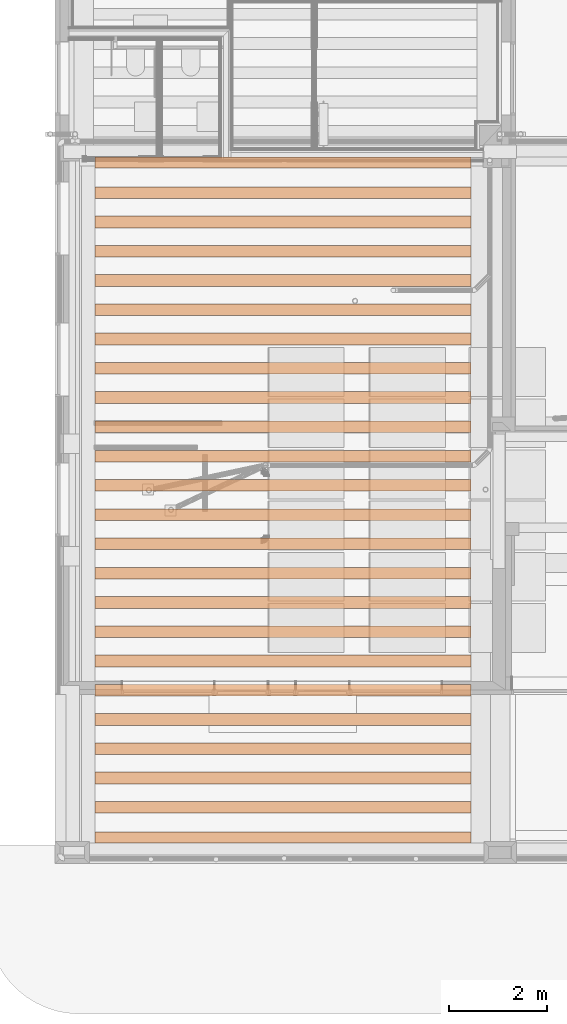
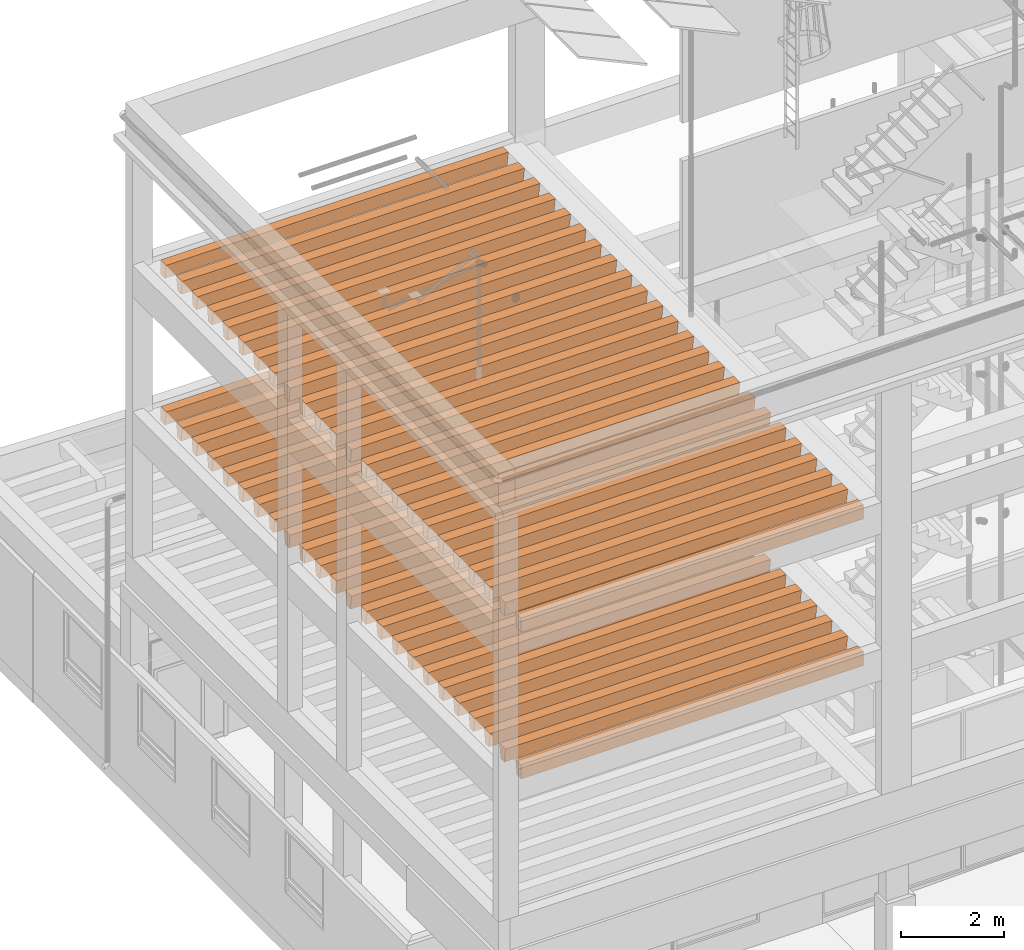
# One storey, part 104 of 106: 2 proxies.
"""IFC2X3 building model written with IfcOpenShell, lengths in metres."""

from ifc_helpers import new_model, entity, si_unit, converted_unit, derived_unit, money_unit, direction, frame, origin_with_axes, place, context, subcontext, project, spatial, faceted_brep, element, save


model = new_model("IFC2X3")

# Units and contexts
model_context = context("Model", 3, precision=1e-05, world=origin_with_axes(), true_north=direction((0.0, 1.0)))
body_context = subcontext(model_context, "Body", "Model", "MODEL_VIEW", scale=1.0)
ifc_project = project(units=[si_unit("LENGTHUNIT", "METRE"), si_unit("AREAUNIT", "SQUARE_METRE"), si_unit("VOLUMEUNIT", "CUBIC_METRE"), si_unit("ABSORBEDDOSEUNIT", "GRAY"), si_unit("AMOUNTOFSUBSTANCEUNIT", "MOLE"), si_unit("DOSEEQUIVALENTUNIT", "SIEVERT"), si_unit("ELECTRICCAPACITANCEUNIT", "FARAD"), si_unit("ELECTRICCHARGEUNIT", "COULOMB"), si_unit("ELECTRICCONDUCTANCEUNIT", "SIEMENS"), si_unit("ELECTRICCURRENTUNIT", "AMPERE"), si_unit("ELECTRICRESISTANCEUNIT", "OHM"), si_unit("ELECTRICVOLTAGEUNIT", "VOLT"), si_unit("ENERGYUNIT", "JOULE"), si_unit("FORCEUNIT", "NEWTON"), si_unit("FREQUENCYUNIT", "HERTZ"), si_unit("ILLUMINANCEUNIT", "LUX"), si_unit("INDUCTANCEUNIT", "HENRY"), si_unit("LUMINOUSFLUXUNIT", "LUMEN"), si_unit("LUMINOUSINTENSITYUNIT", "CANDELA"), si_unit("MAGNETICFLUXDENSITYUNIT", "TESLA"), si_unit("MAGNETICFLUXUNIT", "WEBER"), si_unit("MASSUNIT", "GRAM"), converted_unit("PLANEANGLEUNIT", "degree", entity("IfcReal", 0.0174532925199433), si_unit("PLANEANGLEUNIT", "RADIAN"), dimensions=[0, 0, 0, 0, 0, 0, 0]), si_unit("POWERUNIT", "WATT"), si_unit("PRESSUREUNIT", "PASCAL"), si_unit("RADIOACTIVITYUNIT", "BECQUEREL"), si_unit("SOLIDANGLEUNIT", "STERADIAN"), si_unit("THERMODYNAMICTEMPERATUREUNIT", "KELVIN"), si_unit("TIMEUNIT", "SECOND"), derived_unit("ACCELERATIONUNIT", [(si_unit("LENGTHUNIT", "METRE"), 1), (si_unit("TIMEUNIT", "SECOND"), -2)]), derived_unit("ANGULARVELOCITYUNIT", [(converted_unit("PLANEANGLEUNIT", "degree", entity("IfcReal", 0.0174532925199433), si_unit("PLANEANGLEUNIT", "RADIAN"), dimensions=[0, 0, 0, 0, 0, 0, 0]), 1), (si_unit("TIMEUNIT", "SECOND"), -1)]), derived_unit("CURVATUREUNIT", [(converted_unit("PLANEANGLEUNIT", "degree", entity("IfcReal", 0.0174532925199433), si_unit("PLANEANGLEUNIT", "RADIAN"), dimensions=[0, 0, 0, 0, 0, 0, 0]), 1), (si_unit("LENGTHUNIT", "METRE"), -1)]), derived_unit("DYNAMICVISCOSITYUNIT", [(si_unit("PRESSUREUNIT", "PASCAL"), 1), (si_unit("TIMEUNIT", "SECOND"), 1)]), derived_unit("HEATFLUXDENSITYUNIT", [(si_unit("POWERUNIT", "WATT"), 1), (si_unit("LENGTHUNIT", "METRE"), -2)]), derived_unit("HEATINGVALUEUNIT", [(si_unit("ENERGYUNIT", "JOULE"), 1), (si_unit("MASSUNIT", "GRAM"), -1)]), derived_unit("INTEGERCOUNTRATEUNIT", [(si_unit("TIMEUNIT", "SECOND"), -1)]), derived_unit("IONCONCENTRATIONUNIT", [(si_unit("MASSUNIT", "GRAM"), 1), (si_unit("VOLUMEUNIT", "CUBIC_METRE"), -1)]), derived_unit("ISOTHERMALMOISTURECAPACITYUNIT", [(si_unit("VOLUMEUNIT", "CUBIC_METRE"), 1), (si_unit("MASSUNIT", "GRAM"), -1)]), derived_unit("KINEMATICVISCOSITYUNIT", [(si_unit("AREAUNIT", "SQUARE_METRE"), 1), (si_unit("TIMEUNIT", "SECOND"), -1)]), derived_unit("LINEARFORCEUNIT", [(si_unit("FORCEUNIT", "NEWTON"), 1), (si_unit("LENGTHUNIT", "METRE"), -1)]), derived_unit("LINEARMOMENTUNIT", [(si_unit("FORCEUNIT", "NEWTON"), 1), (si_unit("LENGTHUNIT", "METRE"), -1)]), derived_unit("LINEARSTIFFNESSUNIT", [(si_unit("FORCEUNIT", "NEWTON"), 1), (si_unit("LENGTHUNIT", "METRE"), -1)]), derived_unit("LINEARVELOCITYUNIT", [(si_unit("LENGTHUNIT", "METRE"), 1), (si_unit("TIMEUNIT", "SECOND"), -1)]), derived_unit("LUMINOUSINTENSITYDISTRIBUTIONUNIT", [(si_unit("LUMINOUSINTENSITYUNIT", "CANDELA"), 1), (si_unit("LUMINOUSFLUXUNIT", "LUMEN"), -1)]), derived_unit("MASSDENSITYUNIT", [(si_unit("MASSUNIT", "GRAM"), 1), (si_unit("VOLUMEUNIT", "CUBIC_METRE"), -1)]), derived_unit("MASSFLOWRATEUNIT", [(si_unit("MASSUNIT", "GRAM"), 1), (si_unit("TIMEUNIT", "SECOND"), -1)]), derived_unit("MASSPERLENGTHUNIT", [(si_unit("MASSUNIT", "GRAM"), 1), (si_unit("LENGTHUNIT", "METRE"), -1)]), derived_unit("MODULUSOFELASTICITYUNIT", [(si_unit("FORCEUNIT", "NEWTON"), 1), (si_unit("AREAUNIT", "SQUARE_METRE"), -1)]), derived_unit("MODULUSOFLINEARSUBGRADEREACTIONUNIT", [(si_unit("FORCEUNIT", "NEWTON"), 1), (si_unit("LENGTHUNIT", "METRE"), -2)]), derived_unit("MODULUSOFROTATIONALSUBGRADEREACTIONUNIT", [(si_unit("FORCEUNIT", "NEWTON"), 1), (si_unit("LENGTHUNIT", "METRE"), 1)]), derived_unit("MODULUSOFSUBGRADEREACTIONUNIT", [(si_unit("FORCEUNIT", "NEWTON"), 1), (si_unit("VOLUMEUNIT", "CUBIC_METRE"), -1)]), derived_unit("MOISTUREDIFFUSIVITYUNIT", [(si_unit("VOLUMEUNIT", "CUBIC_METRE"), 1), (si_unit("TIMEUNIT", "SECOND"), -1)]), derived_unit("MOLECULARWEIGHTUNIT", [(si_unit("MASSUNIT", "GRAM"), 1), (si_unit("AMOUNTOFSUBSTANCEUNIT", "MOLE"), -1)]), derived_unit("PLANARFORCEUNIT", [(si_unit("FORCEUNIT", "NEWTON"), 1), (si_unit("LENGTHUNIT", "METRE"), -2)]), derived_unit("ROTATIONALFREQUENCYUNIT", [(si_unit("TIMEUNIT", "SECOND"), -1)]), derived_unit("ROTATIONALMASSUNIT", [(si_unit("MASSUNIT", "GRAM"), 1), (si_unit("LENGTHUNIT", "METRE"), 2)]), derived_unit("ROTATIONALSTIFFNESSUNIT", [(si_unit("FORCEUNIT", "NEWTON"), 1), (si_unit("LENGTHUNIT", "METRE"), 1), (converted_unit("PLANEANGLEUNIT", "degree", entity("IfcReal", 0.0174532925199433), si_unit("PLANEANGLEUNIT", "RADIAN"), dimensions=[0, 0, 0, 0, 0, 0, 0]), -1)]), derived_unit("SECTIONAREAINTEGRALUNIT", [(si_unit("LENGTHUNIT", "METRE"), 5)]), derived_unit("SECTIONMODULUSUNIT", [(si_unit("LENGTHUNIT", "METRE"), 3)]), derived_unit("SHEARMODULUSUNIT", [(si_unit("FORCEUNIT", "NEWTON"), 1), (si_unit("AREAUNIT", "SQUARE_METRE"), -1)]), derived_unit("SOUNDPOWERUNIT", [(si_unit("ENERGYUNIT", "JOULE"), 1), (si_unit("TIMEUNIT", "SECOND"), -1)]), derived_unit("SPECIFICHEATCAPACITYUNIT", [(si_unit("FORCEUNIT", "NEWTON"), 1), (si_unit("MASSUNIT", "GRAM"), -1), (si_unit("THERMODYNAMICTEMPERATUREUNIT", "KELVIN"), -1)]), derived_unit("TEMPERATUREGRADIENTUNIT", [(si_unit("THERMODYNAMICTEMPERATUREUNIT", "KELVIN"), 1), (si_unit("LENGTHUNIT", "METRE"), -1)]), derived_unit("THERMALADMITTANCEUNIT", [(si_unit("POWERUNIT", "WATT"), 1), (si_unit("AREAUNIT", "SQUARE_METRE"), -1), (si_unit("THERMODYNAMICTEMPERATUREUNIT", "KELVIN"), -1)]), derived_unit("THERMALCONDUCTANCEUNIT", [(si_unit("POWERUNIT", "WATT"), 1), (si_unit("LENGTHUNIT", "METRE"), -1), (si_unit("THERMODYNAMICTEMPERATUREUNIT", "KELVIN"), -1)]), derived_unit("THERMALEXPANSIONCOEFFICIENTUNIT", [(si_unit("THERMODYNAMICTEMPERATUREUNIT", "KELVIN"), -1)]), derived_unit("THERMALRESISTANCEUNIT", [(si_unit("AREAUNIT", "SQUARE_METRE"), 1), (si_unit("POWERUNIT", "WATT"), -1)]), derived_unit("THERMALTRANSMITTANCEUNIT", [(si_unit("POWERUNIT", "WATT"), 1), (si_unit("AREAUNIT", "SQUARE_METRE"), -1), (si_unit("THERMODYNAMICTEMPERATUREUNIT", "KELVIN"), -1)]), derived_unit("TORQUEUNIT", [(si_unit("FORCEUNIT", "NEWTON"), 1), (si_unit("LENGTHUNIT", "METRE"), 1)]), derived_unit("VAPORPERMEABILITYUNIT", [(si_unit("MASSUNIT", "GRAM"), 1), (si_unit("TIMEUNIT", "SECOND"), -1)]), derived_unit("VOLUMETRICFLOWRATEUNIT", [(si_unit("VOLUMEUNIT", "CUBIC_METRE"), 1), (si_unit("TIMEUNIT", "SECOND"), -1)]), derived_unit("WARPINGCONSTANTUNIT", [(si_unit("LENGTHUNIT", "METRE"), 6)]), derived_unit("WARPINGMOMENTUNIT", [(si_unit("FORCEUNIT", "NEWTON"), 1), (si_unit("LENGTHUNIT", "METRE"), 2)]), money_unit("GBP")], contexts=[model_context])

# Site, building, storey
site_placement = place(None, origin_with_axes())
site = spatial("IfcSite", under=ifc_project, at=site_placement, Name="Site", CompositionType="ELEMENT")
building_placement = place(site_placement, origin_with_axes())
building = spatial("IfcBuilding", under=site, at=building_placement, Name="Building01", CompositionType="ELEMENT")
storey_placement = place(building_placement, origin_with_axes())
storey = spatial("IfcBuildingStorey", under=building, at=storey_placement, Name="GF", CompositionType="ELEMENT", Elevation=0.0)

# Proxies
proxy_1_placement = place(storey_placement, frame((4.6725, 7.45, 8.3), z_axis=(0.0, 0.0, 1.0), x_axis=(1.0, 0.0, 0.0)))
element("IfcBuildingElementProxy", 1, at=proxy_1_placement, inside=storey, context=body_context, shape_type="Brep", body=[
    faceted_brep([(-3.8525, -7.03, -0.17), (3.8525, -7.03, -0.17), (3.8525, -7.03, 0.17), (-3.8525, -7.03, 0.17), (-3.8525, -6.858571, -0.17), (3.8525, -6.858571, -0.17), (-3.8525, -6.81, 0.17), (3.8525, -6.81, 0.17)], [[[0, 1, 2, 3]], [[4, 5, 1, 0]], [[6, 7, 5, 4]], [[3, 2, 7, 6]], [[1, 5, 7, 2]], [[3, 6, 4, 0]]]),
    faceted_brep([(-3.8525, 7.03, 0.17), (3.8525, 7.03, 0.17), (3.8525, 7.03, -0.17), (-3.8525, 7.03, -0.17), (-3.8525, 6.81, 0.17), (3.8525, 6.81, 0.17), (-3.8525, 6.858572, -0.17), (3.8525, 6.858572, -0.17)], [[[0, 1, 2, 3]], [[4, 5, 1, 0]], [[6, 7, 5, 4]], [[3, 2, 7, 6]], [[1, 5, 7, 2]], [[3, 6, 4, 0]]]),
    faceted_brep([(-3.8525, 5.028572, -0.17), (3.8525, 5.028572, -0.17), (3.8525, 4.98, 0.17), (-3.8525, 4.98, 0.17), (-3.8525, 5.171429, -0.17), (3.8525, 5.171429, -0.17), (-3.8525, 5.22, 0.17), (3.8525, 5.22, 0.17)], [[[0, 1, 2, 3]], [[4, 5, 1, 0]], [[6, 7, 5, 4]], [[3, 2, 7, 6]], [[1, 5, 7, 2]], [[3, 6, 4, 0]]]),
    faceted_brep([(-3.8525, 4.428572, -0.17), (3.8525, 4.428572, -0.17), (3.8525, 4.38, 0.17), (-3.8525, 4.38, 0.17), (-3.8525, 4.571429, -0.17), (3.8525, 4.571429, -0.17), (-3.8525, 4.62, 0.17), (3.8525, 4.62, 0.17)], [[[0, 1, 2, 3]], [[4, 5, 1, 0]], [[6, 7, 5, 4]], [[3, 2, 7, 6]], [[1, 5, 7, 2]], [[3, 6, 4, 0]]]),
    faceted_brep([(-3.8525, 6.228572, -0.17), (3.8525, 6.228572, -0.17), (3.8525, 6.18, 0.17), (-3.8525, 6.18, 0.17), (-3.8525, 6.371429, -0.17), (3.8525, 6.371429, -0.17), (-3.8525, 6.42, 0.17), (3.8525, 6.42, 0.17)], [[[0, 1, 2, 3]], [[4, 5, 1, 0]], [[6, 7, 5, 4]], [[3, 2, 7, 6]], [[1, 5, 7, 2]], [[3, 6, 4, 0]]]),
    faceted_brep([(-3.8525, 5.628572, -0.17), (3.8525, 5.628572, -0.17), (3.8525, 5.58, 0.17), (-3.8525, 5.58, 0.17), (-3.8525, 5.771429, -0.17), (3.8525, 5.771429, -0.17), (-3.8525, 5.82, 0.17), (3.8525, 5.82, 0.17)], [[[0, 1, 2, 3]], [[4, 5, 1, 0]], [[6, 7, 5, 4]], [[3, 2, 7, 6]], [[1, 5, 7, 2]], [[3, 6, 4, 0]]]),
    faceted_brep([(-3.8525, 3.228572, -0.17), (3.8525, 3.228572, -0.17), (3.8525, 3.18, 0.17), (-3.8525, 3.18, 0.17), (-3.8525, 3.371429, -0.17), (3.8525, 3.371429, -0.17), (-3.8525, 3.42, 0.17), (3.8525, 3.42, 0.17)], [[[0, 1, 2, 3]], [[4, 5, 1, 0]], [[6, 7, 5, 4]], [[3, 2, 7, 6]], [[1, 5, 7, 2]], [[3, 6, 4, 0]]]),
    faceted_brep([(-3.8525, 2.628572, -0.17), (3.8525, 2.628572, -0.17), (3.8525, 2.58, 0.17), (-3.8525, 2.58, 0.17), (-3.8525, 2.771429, -0.17), (3.8525, 2.771429, -0.17), (-3.8525, 2.82, 0.17), (3.8525, 2.82, 0.17)], [[[0, 1, 2, 3]], [[4, 5, 1, 0]], [[6, 7, 5, 4]], [[3, 2, 7, 6]], [[1, 5, 7, 2]], [[3, 6, 4, 0]]]),
    faceted_brep([(-3.8525, 3.828572, -0.17), (3.8525, 3.828572, -0.17), (3.8525, 3.78, 0.17), (-3.8525, 3.78, 0.17), (-3.8525, 3.971429, -0.17), (3.8525, 3.971429, -0.17), (-3.8525, 4.02, 0.17), (3.8525, 4.02, 0.17)], [[[0, 1, 2, 3]], [[4, 5, 1, 0]], [[6, 7, 5, 4]], [[3, 2, 7, 6]], [[1, 5, 7, 2]], [[3, 6, 4, 0]]]),
    faceted_brep([(-3.8525, 1.428572, -0.17), (3.8525, 1.428572, -0.17), (3.8525, 1.38, 0.17), (-3.8525, 1.38, 0.17), (-3.8525, 1.571429, -0.17), (3.8525, 1.571429, -0.17), (-3.8525, 1.62, 0.17), (3.8525, 1.62, 0.17)], [[[0, 1, 2, 3]], [[4, 5, 1, 0]], [[6, 7, 5, 4]], [[3, 2, 7, 6]], [[1, 5, 7, 2]], [[3, 6, 4, 0]]]),
    faceted_brep([(-3.8525, 0.828572, -0.17), (3.8525, 0.828572, -0.17), (3.8525, 0.78, 0.17), (-3.8525, 0.78, 0.17), (-3.8525, 0.971429, -0.17), (3.8525, 0.971429, -0.17), (-3.8525, 1.02, 0.17), (3.8525, 1.02, 0.17)], [[[0, 1, 2, 3]], [[4, 5, 1, 0]], [[6, 7, 5, 4]], [[3, 2, 7, 6]], [[1, 5, 7, 2]], [[3, 6, 4, 0]]]),
    faceted_brep([(-3.8525, 2.028572, -0.17), (3.8525, 2.028572, -0.17), (3.8525, 1.98, 0.17), (-3.8525, 1.98, 0.17), (-3.8525, 2.171429, -0.17), (3.8525, 2.171429, -0.17), (-3.8525, 2.22, 0.17), (3.8525, 2.22, 0.17)], [[[0, 1, 2, 3]], [[4, 5, 1, 0]], [[6, 7, 5, 4]], [[3, 2, 7, 6]], [[1, 5, 7, 2]], [[3, 6, 4, 0]]]),
    faceted_brep([(-3.8525, -0.371428, -0.17), (3.8525, -0.371428, -0.17), (3.8525, -0.42, 0.17), (-3.8525, -0.42, 0.17), (-3.8525, -0.228571, -0.17), (3.8525, -0.228571, -0.17), (-3.8525, -0.18, 0.17), (3.8525, -0.18, 0.17)], [[[0, 1, 2, 3]], [[4, 5, 1, 0]], [[6, 7, 5, 4]], [[3, 2, 7, 6]], [[1, 5, 7, 2]], [[3, 6, 4, 0]]]),
    faceted_brep([(-3.8525, -0.971428, -0.17), (3.8525, -0.971428, -0.17), (3.8525, -1.02, 0.17), (-3.8525, -1.02, 0.17), (-3.8525, -0.828571, -0.17), (3.8525, -0.828571, -0.17), (-3.8525, -0.78, 0.17), (3.8525, -0.78, 0.17)], [[[0, 1, 2, 3]], [[4, 5, 1, 0]], [[6, 7, 5, 4]], [[3, 2, 7, 6]], [[1, 5, 7, 2]], [[3, 6, 4, 0]]]),
    faceted_brep([(-3.8525, 0.228572, -0.17), (3.8525, 0.228572, -0.17), (3.8525, 0.18, 0.17), (-3.8525, 0.18, 0.17), (-3.8525, 0.371429, -0.17), (3.8525, 0.371429, -0.17), (-3.8525, 0.42, 0.17), (3.8525, 0.42, 0.17)], [[[0, 1, 2, 3]], [[4, 5, 1, 0]], [[6, 7, 5, 4]], [[3, 2, 7, 6]], [[1, 5, 7, 2]], [[3, 6, 4, 0]]]),
    faceted_brep([(-3.8525, -2.171428, -0.17), (3.8525, -2.171428, -0.17), (3.8525, -2.22, 0.17), (-3.8525, -2.22, 0.17), (-3.8525, -2.028571, -0.17), (3.8525, -2.028571, -0.17), (-3.8525, -1.98, 0.17), (3.8525, -1.98, 0.17)], [[[0, 1, 2, 3]], [[4, 5, 1, 0]], [[6, 7, 5, 4]], [[3, 2, 7, 6]], [[1, 5, 7, 2]], [[3, 6, 4, 0]]]),
    faceted_brep([(-3.8525, -2.771428, -0.17), (3.8525, -2.771428, -0.17), (3.8525, -2.82, 0.17), (-3.8525, -2.82, 0.17), (-3.8525, -2.628571, -0.17), (3.8525, -2.628571, -0.17), (-3.8525, -2.58, 0.17), (3.8525, -2.58, 0.17)], [[[0, 1, 2, 3]], [[4, 5, 1, 0]], [[6, 7, 5, 4]], [[3, 2, 7, 6]], [[1, 5, 7, 2]], [[3, 6, 4, 0]]]),
    faceted_brep([(-3.8525, -1.571428, -0.17), (3.8525, -1.571428, -0.17), (3.8525, -1.62, 0.17), (-3.8525, -1.62, 0.17), (-3.8525, -1.428571, -0.17), (3.8525, -1.428571, -0.17), (-3.8525, -1.38, 0.17), (3.8525, -1.38, 0.17)], [[[0, 1, 2, 3]], [[4, 5, 1, 0]], [[6, 7, 5, 4]], [[3, 2, 7, 6]], [[1, 5, 7, 2]], [[3, 6, 4, 0]]]),
    faceted_brep([(-3.8525, -3.971428, -0.17), (3.8525, -3.971428, -0.17), (3.8525, -4.02, 0.17), (-3.8525, -4.02, 0.17), (-3.8525, -3.828571, -0.17), (3.8525, -3.828571, -0.17), (-3.8525, -3.78, 0.17), (3.8525, -3.78, 0.17)], [[[0, 1, 2, 3]], [[4, 5, 1, 0]], [[6, 7, 5, 4]], [[3, 2, 7, 6]], [[1, 5, 7, 2]], [[3, 6, 4, 0]]]),
    faceted_brep([(-3.8525, -4.571428, -0.17), (3.8525, -4.571428, -0.17), (3.8525, -4.62, 0.17), (-3.8525, -4.62, 0.17), (-3.8525, -4.428571, -0.17), (3.8525, -4.428571, -0.17), (-3.8525, -4.38, 0.17), (3.8525, -4.38, 0.17)], [[[0, 1, 2, 3]], [[4, 5, 1, 0]], [[6, 7, 5, 4]], [[3, 2, 7, 6]], [[1, 5, 7, 2]], [[3, 6, 4, 0]]]),
    faceted_brep([(-3.8525, -3.371428, -0.17), (3.8525, -3.371428, -0.17), (3.8525, -3.42, 0.17), (-3.8525, -3.42, 0.17), (-3.8525, -3.228571, -0.17), (3.8525, -3.228571, -0.17), (-3.8525, -3.18, 0.17), (3.8525, -3.18, 0.17)], [[[0, 1, 2, 3]], [[4, 5, 1, 0]], [[6, 7, 5, 4]], [[3, 2, 7, 6]], [[1, 5, 7, 2]], [[3, 6, 4, 0]]]),
    faceted_brep([(-3.8525, -5.771428, -0.17), (3.8525, -5.771428, -0.17), (3.8525, -5.82, 0.17), (-3.8525, -5.82, 0.17), (-3.8525, -5.628571, -0.17), (3.8525, -5.628571, -0.17), (-3.8525, -5.58, 0.17), (3.8525, -5.58, 0.17)], [[[0, 1, 2, 3]], [[4, 5, 1, 0]], [[6, 7, 5, 4]], [[3, 2, 7, 6]], [[1, 5, 7, 2]], [[3, 6, 4, 0]]]),
    faceted_brep([(-3.8525, -6.371428, -0.17), (3.8525, -6.371428, -0.17), (3.8525, -6.42, 0.17), (-3.8525, -6.42, 0.17), (-3.8525, -6.228571, -0.17), (3.8525, -6.228571, -0.17), (-3.8525, -6.18, 0.17), (3.8525, -6.18, 0.17)], [[[0, 1, 2, 3]], [[4, 5, 1, 0]], [[6, 7, 5, 4]], [[3, 2, 7, 6]], [[1, 5, 7, 2]], [[3, 6, 4, 0]]]),
    faceted_brep([(-3.8525, -5.171428, -0.17), (3.8525, -5.171428, -0.17), (3.8525, -5.22, 0.17), (-3.8525, -5.22, 0.17), (-3.8525, -5.028571, -0.17), (3.8525, -5.028571, -0.17), (-3.8525, -4.98, 0.17), (3.8525, -4.98, 0.17)], [[[0, 1, 2, 3]], [[4, 5, 1, 0]], [[6, 7, 5, 4]], [[3, 2, 7, 6]], [[1, 5, 7, 2]], [[3, 6, 4, 0]]]),
])
proxy_2_placement = place(storey_placement, frame((4.6725, 7.45, 11.79), z_axis=(0.0, 0.0, 1.0), x_axis=(1.0, 0.0, 0.0)))
element("IfcBuildingElementProxy", 2, at=proxy_2_placement, inside=storey, context=body_context, shape_type="Brep", body=[
    faceted_brep([(-3.8525, -7.03, -0.17), (3.8525, -7.03, -0.17), (3.8525, -7.03, 0.17), (-3.8525, -7.03, 0.17), (-3.8525, -6.858571, -0.17), (3.8525, -6.858571, -0.17), (-3.8525, -6.81, 0.17), (3.8525, -6.81, 0.17)], [[[0, 1, 2, 3]], [[4, 5, 1, 0]], [[6, 7, 5, 4]], [[3, 2, 7, 6]], [[1, 5, 7, 2]], [[3, 6, 4, 0]]]),
    faceted_brep([(-3.8525, 7.03, 0.17), (3.8525, 7.03, 0.17), (3.8525, 7.03, -0.17), (-3.8525, 7.03, -0.17), (-3.8525, 6.81, 0.17), (3.8525, 6.81, 0.17), (-3.8525, 6.858572, -0.17), (3.8525, 6.858572, -0.17)], [[[0, 1, 2, 3]], [[4, 5, 1, 0]], [[6, 7, 5, 4]], [[3, 2, 7, 6]], [[1, 5, 7, 2]], [[3, 6, 4, 0]]]),
    faceted_brep([(-3.8525, 5.028572, -0.17), (3.8525, 5.028572, -0.17), (3.8525, 4.98, 0.17), (-3.8525, 4.98, 0.17), (-3.8525, 5.171429, -0.17), (3.8525, 5.171429, -0.17), (-3.8525, 5.22, 0.17), (3.8525, 5.22, 0.17)], [[[0, 1, 2, 3]], [[4, 5, 1, 0]], [[6, 7, 5, 4]], [[3, 2, 7, 6]], [[1, 5, 7, 2]], [[3, 6, 4, 0]]]),
    faceted_brep([(-3.8525, 4.428572, -0.17), (3.8525, 4.428572, -0.17), (3.8525, 4.38, 0.17), (-3.8525, 4.38, 0.17), (-3.8525, 4.571429, -0.17), (3.8525, 4.571429, -0.17), (-3.8525, 4.62, 0.17), (3.8525, 4.62, 0.17)], [[[0, 1, 2, 3]], [[4, 5, 1, 0]], [[6, 7, 5, 4]], [[3, 2, 7, 6]], [[1, 5, 7, 2]], [[3, 6, 4, 0]]]),
    faceted_brep([(-3.8525, 6.228572, -0.17), (3.8525, 6.228572, -0.17), (3.8525, 6.18, 0.17), (-3.8525, 6.18, 0.17), (-3.8525, 6.371429, -0.17), (3.8525, 6.371429, -0.17), (-3.8525, 6.42, 0.17), (3.8525, 6.42, 0.17)], [[[0, 1, 2, 3]], [[4, 5, 1, 0]], [[6, 7, 5, 4]], [[3, 2, 7, 6]], [[1, 5, 7, 2]], [[3, 6, 4, 0]]]),
    faceted_brep([(-3.8525, 5.628572, -0.17), (3.8525, 5.628572, -0.17), (3.8525, 5.58, 0.17), (-3.8525, 5.58, 0.17), (-3.8525, 5.771429, -0.17), (3.8525, 5.771429, -0.17), (-3.8525, 5.82, 0.17), (3.8525, 5.82, 0.17)], [[[0, 1, 2, 3]], [[4, 5, 1, 0]], [[6, 7, 5, 4]], [[3, 2, 7, 6]], [[1, 5, 7, 2]], [[3, 6, 4, 0]]]),
    faceted_brep([(-3.8525, 3.228572, -0.17), (3.8525, 3.228572, -0.17), (3.8525, 3.18, 0.17), (-3.8525, 3.18, 0.17), (-3.8525, 3.371429, -0.17), (3.8525, 3.371429, -0.17), (-3.8525, 3.42, 0.17), (3.8525, 3.42, 0.17)], [[[0, 1, 2, 3]], [[4, 5, 1, 0]], [[6, 7, 5, 4]], [[3, 2, 7, 6]], [[1, 5, 7, 2]], [[3, 6, 4, 0]]]),
    faceted_brep([(-3.8525, 2.628572, -0.17), (3.8525, 2.628572, -0.17), (3.8525, 2.58, 0.17), (-3.8525, 2.58, 0.17), (-3.8525, 2.771429, -0.17), (3.8525, 2.771429, -0.17), (-3.8525, 2.82, 0.17), (3.8525, 2.82, 0.17)], [[[0, 1, 2, 3]], [[4, 5, 1, 0]], [[6, 7, 5, 4]], [[3, 2, 7, 6]], [[1, 5, 7, 2]], [[3, 6, 4, 0]]]),
    faceted_brep([(-3.8525, 3.828572, -0.17), (3.8525, 3.828572, -0.17), (3.8525, 3.78, 0.17), (-3.8525, 3.78, 0.17), (-3.8525, 3.971429, -0.17), (3.8525, 3.971429, -0.17), (-3.8525, 4.02, 0.17), (3.8525, 4.02, 0.17)], [[[0, 1, 2, 3]], [[4, 5, 1, 0]], [[6, 7, 5, 4]], [[3, 2, 7, 6]], [[1, 5, 7, 2]], [[3, 6, 4, 0]]]),
    faceted_brep([(-3.8525, 1.428572, -0.17), (3.8525, 1.428572, -0.17), (3.8525, 1.38, 0.17), (-3.8525, 1.38, 0.17), (-3.8525, 1.571429, -0.17), (3.8525, 1.571429, -0.17), (-3.8525, 1.62, 0.17), (3.8525, 1.62, 0.17)], [[[0, 1, 2, 3]], [[4, 5, 1, 0]], [[6, 7, 5, 4]], [[3, 2, 7, 6]], [[1, 5, 7, 2]], [[3, 6, 4, 0]]]),
    faceted_brep([(-3.8525, 0.828572, -0.17), (3.8525, 0.828572, -0.17), (3.8525, 0.78, 0.17), (-3.8525, 0.78, 0.17), (-3.8525, 0.971429, -0.17), (3.8525, 0.971429, -0.17), (-3.8525, 1.02, 0.17), (3.8525, 1.02, 0.17)], [[[0, 1, 2, 3]], [[4, 5, 1, 0]], [[6, 7, 5, 4]], [[3, 2, 7, 6]], [[1, 5, 7, 2]], [[3, 6, 4, 0]]]),
    faceted_brep([(-3.8525, 2.028572, -0.17), (3.8525, 2.028572, -0.17), (3.8525, 1.98, 0.17), (-3.8525, 1.98, 0.17), (-3.8525, 2.171429, -0.17), (3.8525, 2.171429, -0.17), (-3.8525, 2.22, 0.17), (3.8525, 2.22, 0.17)], [[[0, 1, 2, 3]], [[4, 5, 1, 0]], [[6, 7, 5, 4]], [[3, 2, 7, 6]], [[1, 5, 7, 2]], [[3, 6, 4, 0]]]),
    faceted_brep([(-3.8525, -0.371428, -0.17), (3.8525, -0.371428, -0.17), (3.8525, -0.42, 0.17), (-3.8525, -0.42, 0.17), (-3.8525, -0.228571, -0.17), (3.8525, -0.228571, -0.17), (-3.8525, -0.18, 0.17), (3.8525, -0.18, 0.17)], [[[0, 1, 2, 3]], [[4, 5, 1, 0]], [[6, 7, 5, 4]], [[3, 2, 7, 6]], [[1, 5, 7, 2]], [[3, 6, 4, 0]]]),
    faceted_brep([(-3.8525, -0.971428, -0.17), (3.8525, -0.971428, -0.17), (3.8525, -1.02, 0.17), (-3.8525, -1.02, 0.17), (-3.8525, -0.828571, -0.17), (3.8525, -0.828571, -0.17), (-3.8525, -0.78, 0.17), (3.8525, -0.78, 0.17)], [[[0, 1, 2, 3]], [[4, 5, 1, 0]], [[6, 7, 5, 4]], [[3, 2, 7, 6]], [[1, 5, 7, 2]], [[3, 6, 4, 0]]]),
    faceted_brep([(-3.8525, 0.228572, -0.17), (3.8525, 0.228572, -0.17), (3.8525, 0.18, 0.17), (-3.8525, 0.18, 0.17), (-3.8525, 0.371429, -0.17), (3.8525, 0.371429, -0.17), (-3.8525, 0.42, 0.17), (3.8525, 0.42, 0.17)], [[[0, 1, 2, 3]], [[4, 5, 1, 0]], [[6, 7, 5, 4]], [[3, 2, 7, 6]], [[1, 5, 7, 2]], [[3, 6, 4, 0]]]),
    faceted_brep([(-3.8525, -2.171428, -0.17), (3.8525, -2.171428, -0.17), (3.8525, -2.22, 0.17), (-3.8525, -2.22, 0.17), (-3.8525, -2.028571, -0.17), (3.8525, -2.028571, -0.17), (-3.8525, -1.98, 0.17), (3.8525, -1.98, 0.17)], [[[0, 1, 2, 3]], [[4, 5, 1, 0]], [[6, 7, 5, 4]], [[3, 2, 7, 6]], [[1, 5, 7, 2]], [[3, 6, 4, 0]]]),
    faceted_brep([(-3.8525, -2.771428, -0.17), (3.8525, -2.771428, -0.17), (3.8525, -2.82, 0.17), (-3.8525, -2.82, 0.17), (-3.8525, -2.628571, -0.17), (3.8525, -2.628571, -0.17), (-3.8525, -2.58, 0.17), (3.8525, -2.58, 0.17)], [[[0, 1, 2, 3]], [[4, 5, 1, 0]], [[6, 7, 5, 4]], [[3, 2, 7, 6]], [[1, 5, 7, 2]], [[3, 6, 4, 0]]]),
    faceted_brep([(-3.8525, -1.571428, -0.17), (3.8525, -1.571428, -0.17), (3.8525, -1.62, 0.17), (-3.8525, -1.62, 0.17), (-3.8525, -1.428571, -0.17), (3.8525, -1.428571, -0.17), (-3.8525, -1.38, 0.17), (3.8525, -1.38, 0.17)], [[[0, 1, 2, 3]], [[4, 5, 1, 0]], [[6, 7, 5, 4]], [[3, 2, 7, 6]], [[1, 5, 7, 2]], [[3, 6, 4, 0]]]),
    faceted_brep([(-3.8525, -3.971428, -0.17), (3.8525, -3.971428, -0.17), (3.8525, -4.02, 0.17), (-3.8525, -4.02, 0.17), (-3.8525, -3.828571, -0.17), (3.8525, -3.828571, -0.17), (-3.8525, -3.78, 0.17), (3.8525, -3.78, 0.17)], [[[0, 1, 2, 3]], [[4, 5, 1, 0]], [[6, 7, 5, 4]], [[3, 2, 7, 6]], [[1, 5, 7, 2]], [[3, 6, 4, 0]]]),
    faceted_brep([(-3.8525, -4.571428, -0.17), (3.8525, -4.571428, -0.17), (3.8525, -4.62, 0.17), (-3.8525, -4.62, 0.17), (-3.8525, -4.428571, -0.17), (3.8525, -4.428571, -0.17), (-3.8525, -4.38, 0.17), (3.8525, -4.38, 0.17)], [[[0, 1, 2, 3]], [[4, 5, 1, 0]], [[6, 7, 5, 4]], [[3, 2, 7, 6]], [[1, 5, 7, 2]], [[3, 6, 4, 0]]]),
    faceted_brep([(-3.8525, -3.371428, -0.17), (3.8525, -3.371428, -0.17), (3.8525, -3.42, 0.17), (-3.8525, -3.42, 0.17), (-3.8525, -3.228571, -0.17), (3.8525, -3.228571, -0.17), (-3.8525, -3.18, 0.17), (3.8525, -3.18, 0.17)], [[[0, 1, 2, 3]], [[4, 5, 1, 0]], [[6, 7, 5, 4]], [[3, 2, 7, 6]], [[1, 5, 7, 2]], [[3, 6, 4, 0]]]),
    faceted_brep([(-3.8525, -5.771428, -0.17), (3.8525, -5.771428, -0.17), (3.8525, -5.82, 0.17), (-3.8525, -5.82, 0.17), (-3.8525, -5.628571, -0.17), (3.8525, -5.628571, -0.17), (-3.8525, -5.58, 0.17), (3.8525, -5.58, 0.17)], [[[0, 1, 2, 3]], [[4, 5, 1, 0]], [[6, 7, 5, 4]], [[3, 2, 7, 6]], [[1, 5, 7, 2]], [[3, 6, 4, 0]]]),
    faceted_brep([(-3.8525, -6.371428, -0.17), (3.8525, -6.371428, -0.17), (3.8525, -6.42, 0.17), (-3.8525, -6.42, 0.17), (-3.8525, -6.228571, -0.17), (3.8525, -6.228571, -0.17), (-3.8525, -6.18, 0.17), (3.8525, -6.18, 0.17)], [[[0, 1, 2, 3]], [[4, 5, 1, 0]], [[6, 7, 5, 4]], [[3, 2, 7, 6]], [[1, 5, 7, 2]], [[3, 6, 4, 0]]]),
    faceted_brep([(-3.8525, -5.171428, -0.17), (3.8525, -5.171428, -0.17), (3.8525, -5.22, 0.17), (-3.8525, -5.22, 0.17), (-3.8525, -5.028571, -0.17), (3.8525, -5.028571, -0.17), (-3.8525, -4.98, 0.17), (3.8525, -4.98, 0.17)], [[[0, 1, 2, 3]], [[4, 5, 1, 0]], [[6, 7, 5, 4]], [[3, 2, 7, 6]], [[1, 5, 7, 2]], [[3, 6, 4, 0]]]),
])

save(model, "model.ifc")
